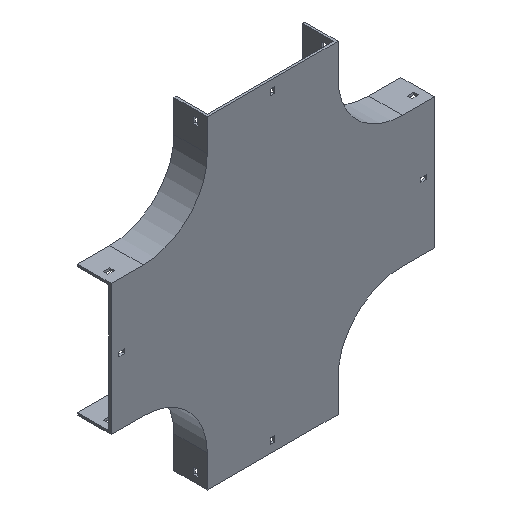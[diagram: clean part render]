
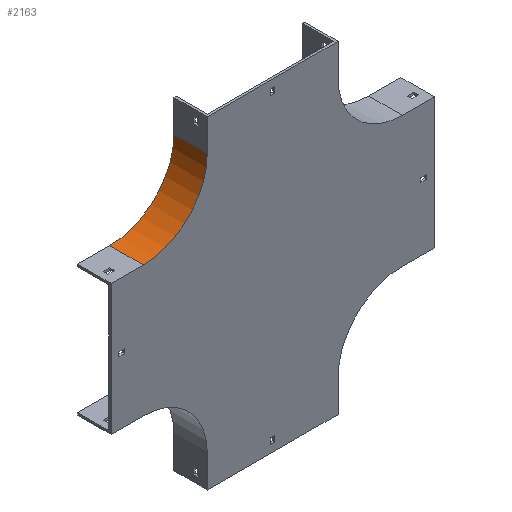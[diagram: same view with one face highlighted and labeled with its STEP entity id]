
A CAD part, isometric view. The second image highlights one B-rep face of the part: STEP entity #2163.
In plain terms, the highlighted cylindrical face has radius 100 mm (diameter 200 mm), a partial arc.
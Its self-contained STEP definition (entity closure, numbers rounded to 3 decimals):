
#32 = ORIENTED_EDGE ( 'NONE', *, *, #112, .T. ) ;
#112 = EDGE_CURVE ( 'NONE', #2063, #729, #678, .T. ) ;
#225 = ORIENTED_EDGE ( 'NONE', *, *, #2446, .F. ) ;
#269 = DIRECTION ( 'NONE',  ( 0., -1., 0. ) ) ;
#301 = ORIENTED_EDGE ( 'NONE', *, *, #1875, .T. ) ;
#328 = CIRCLE ( 'NONE', #1497, 100. ) ;
#420 = VECTOR ( 'NONE', #1512, 1000. ) ;
#547 = DIRECTION ( 'NONE',  ( 0., 0., 1. ) ) ;
#588 = ORIENTED_EDGE ( 'NONE', *, *, #2169, .F. ) ;
#678 = LINE ( 'NONE', #2183, #420 ) ;
#729 = VERTEX_POINT ( 'NONE', #1580 ) ;
#750 = CARTESIAN_POINT ( 'NONE',  ( -304., 52., 0. ) ) ;
#759 = FACE_OUTER_BOUND ( 'NONE', #949, .T. ) ;
#888 = CIRCLE ( 'NONE', #1958, 100. ) ;
#949 = EDGE_LOOP ( 'NONE', ( #301, #588, #225, #32 ) ) ;
#1030 = CYLINDRICAL_SURFACE ( 'NONE', #2032, 100. ) ;
#1133 = CARTESIAN_POINT ( 'NONE',  ( -404., 52., -100. ) ) ;
#1140 = DIRECTION ( 'NONE',  ( 0., 0., 1. ) ) ;
#1214 = DIRECTION ( 'NONE',  ( 0., -1., 0. ) ) ;
#1365 = DIRECTION ( 'NONE',  ( 0., -1., 0. ) ) ;
#1464 = CARTESIAN_POINT ( 'NONE',  ( -304., 0., 0. ) ) ;
#1497 = AXIS2_PLACEMENT_3D ( 'NONE', #1501, #269, #1140 ) ;
#1501 = CARTESIAN_POINT ( 'NONE',  ( -404., 0., 0. ) ) ;
#1512 = DIRECTION ( 'NONE',  ( 0., -1., 0. ) ) ;
#1580 = CARTESIAN_POINT ( 'NONE',  ( -404., 0., -100. ) ) ;
#1598 = CARTESIAN_POINT ( 'NONE',  ( -404., 52., 0. ) ) ;
#1649 = VERTEX_POINT ( 'NONE', #2116 ) ;
#1828 = DIRECTION ( 'NONE',  ( 0., -1., 0. ) ) ;
#1875 = EDGE_CURVE ( 'NONE', #729, #2663, #328, .T. ) ;
#1958 = AXIS2_PLACEMENT_3D ( 'NONE', #1598, #1365, #547 ) ;
#2032 = AXIS2_PLACEMENT_3D ( 'NONE', #2676, #1828, #2227 ) ;
#2063 = VERTEX_POINT ( 'NONE', #1133 ) ;
#2116 = CARTESIAN_POINT ( 'NONE',  ( -304., 52., 0. ) ) ;
#2163 = ADVANCED_FACE ( 'NONE', ( #759 ), #1030, .F. ) ;
#2169 = EDGE_CURVE ( 'NONE', #1649, #2663, #2649, .T. ) ;
#2183 = CARTESIAN_POINT ( 'NONE',  ( -404., 52., -100. ) ) ;
#2227 = DIRECTION ( 'NONE',  ( 0., 0., -1. ) ) ;
#2446 = EDGE_CURVE ( 'NONE', #2063, #1649, #888, .T. ) ;
#2607 = VECTOR ( 'NONE', #1214, 1000. ) ;
#2649 = LINE ( 'NONE', #750, #2607 ) ;
#2663 = VERTEX_POINT ( 'NONE', #1464 ) ;
#2676 = CARTESIAN_POINT ( 'NONE',  ( -404., 52., 0. ) ) ;
